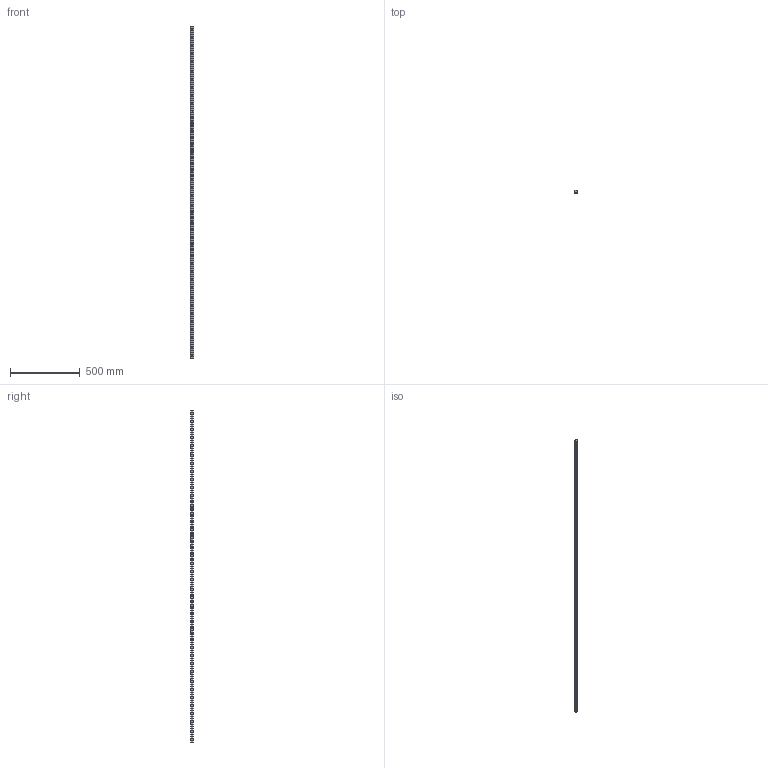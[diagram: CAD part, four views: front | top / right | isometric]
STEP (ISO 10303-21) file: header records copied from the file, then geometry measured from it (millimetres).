
FILE_DESCRIPTION (( 'STEP AP203' ), '1' );
FILE_NAME ('L1016.BL25-2380.step', '2019-06-12T12:11:01', ( '' ), ( '' ), 'SwSTEP 2.0', 'SolidWorks 2017', '' );
FILE_SCHEMA (( 'CONFIG_CONTROL_DESIGN' ));
Length unit declared in the file: millimetre
Products named in the file (1): L1016.BL25-2380
Bounding box: 23 x 19.2 x 2380 mm (x, y, z)
Volume: 876983.8 mm3; surface area: 225367.1 mm2
Topology: 1 solids, 1 shells, 226 faces, 552 edges, 368 vertices
Faces by surface type: cylinder 164, plane 62
Entity records: 7061 total; most frequent: DIRECTION 1334, CARTESIAN_POINT 1147, ORIENTED_EDGE 1104, AXIS2_PLACEMENT_3D 555, EDGE_CURVE 552, VERTEX_POINT 368, EDGE_LOOP 346, CIRCLE 328
